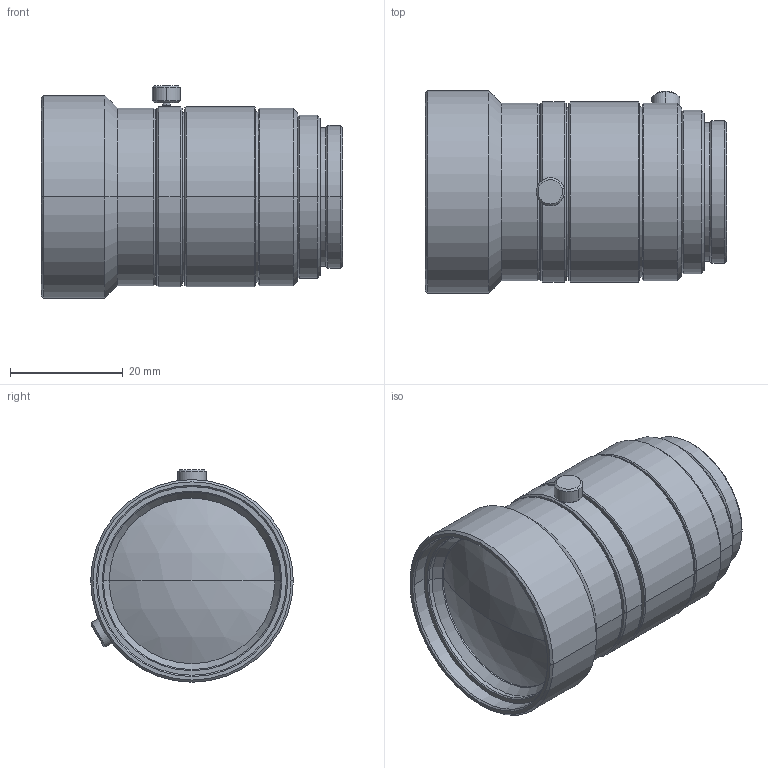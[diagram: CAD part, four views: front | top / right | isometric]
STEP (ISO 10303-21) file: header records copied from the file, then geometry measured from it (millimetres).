
FILE_DESCRIPTION (( 'STEP AP203' ), '1' );
FILE_NAME ('SV-7525H.STEP', '2016-04-27T06:28:22', ( '' ), ( '' ), 'SwSTEP 2.0', 'SolidWorks 2016', '' );
FILE_SCHEMA (( 'CONFIG_CONTROL_DESIGN' ));
Length unit declared in the file: millimetre
Products named in the file (1): SV-7525H
Bounding box: 53.5 x 36 x 37.75 mm (x, y, z)
Volume: 39135 mm3; surface area: 8972.2 mm2
Topology: 1 solids, 1 shells, 138 faces, 274 edges, 158 vertices
Faces by surface type: cone 64, cylinder 50, plane 20, sphere 4
Entity records: 3675 total; most frequent: DIRECTION 704, CARTESIAN_POINT 635, ORIENTED_EDGE 548, AXIS2_PLACEMENT_3D 295, EDGE_CURVE 274, VERTEX_POINT 158, EDGE_LOOP 158, CIRCLE 156
